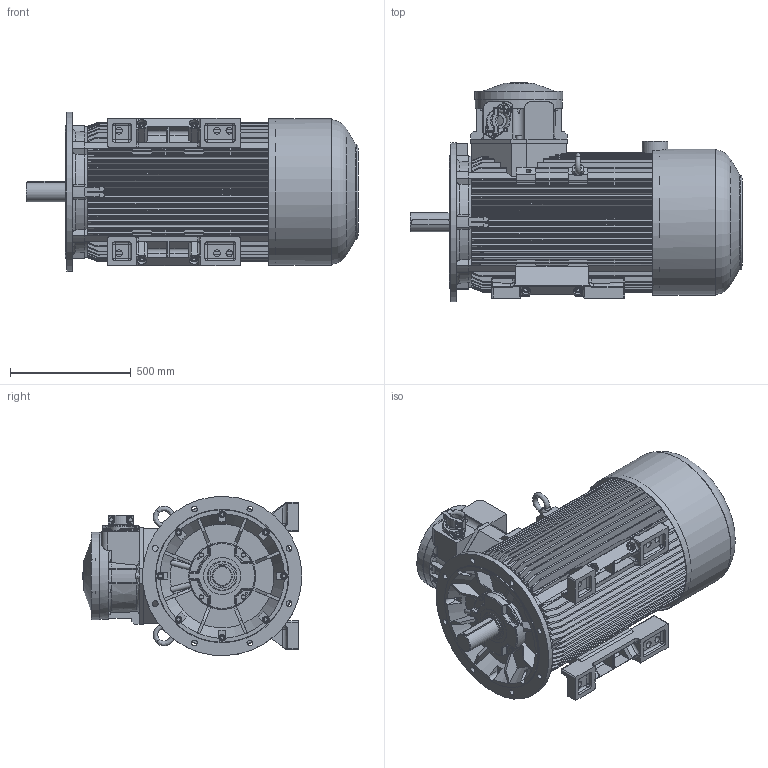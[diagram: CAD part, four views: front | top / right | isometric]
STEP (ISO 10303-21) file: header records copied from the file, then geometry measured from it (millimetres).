
FILE_DESCRIPTION(/* description */ ('Unknown'),/* implementation_level */ '2;1');
FILE_NAME(/* name */ 'cSTLe(b)315M4(A,B), M(6,8)B-N-IE(2,3)',/* time_stamp */ '2022-04-19T14:16:07+02:00',/* author */ ('Unknown'),/* organization */ ('Unknown'),/* preprocessor_version */ 'ST-DEVELOPER v16.7',/* originating_system */ 'DEX',/* authorisation */ $);
FILE_SCHEMA (('AUTOMOTIVE_DESIGN {1 0 10303 214 3 1 1}'));
Products named in the file (1): cSTLe(b)315M4(A,B), M(6,8)B-N-IE(2,3)
Bounding box: 1375.49 x 910 x 659.67 mm (x, y, z)
Volume: 309836040.5 mm3; surface area: 8027151.3 mm2
Topology: 1 solids, 66 shells, 2912 faces, 7489 edges, 4751 vertices
Faces by surface type: plane 1255, cylinder 881, cone 354, torus 226, bspline 128, sphere 68
Full cylindrical faces by diameter (mm): 2.459 x2, 2.8 x2, 3 x4, 4.5 x1, 6 x1, 6.3 x1, 6.647 x4, 8.16 x2, 8.376 x4, 10 x10, 10.106 x10, 11 x7, 12 x17, 13.5 x8, 13.546 x12, 13.835 x14, 14.63 x8, 16 x25, 17.5 x12, 18 x8, 20.319 x4, 20.752 x8, 22 x8, 24 x20, 26 x16, 28 x6, 40 x4, 44 x1, 60.376 x1, 67 x1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
Entity records: 112953 total; most frequent: CARTESIAN_POINT 25227, DIRECTION 13981, ORIENTED_EDGE 13610, EDGE_CURVE 6805, AXIS2_PLACEMENT_3D 5341, VERTEX_POINT 4545, FACE_BOUND 3556, EDGE_LOOP 3529
